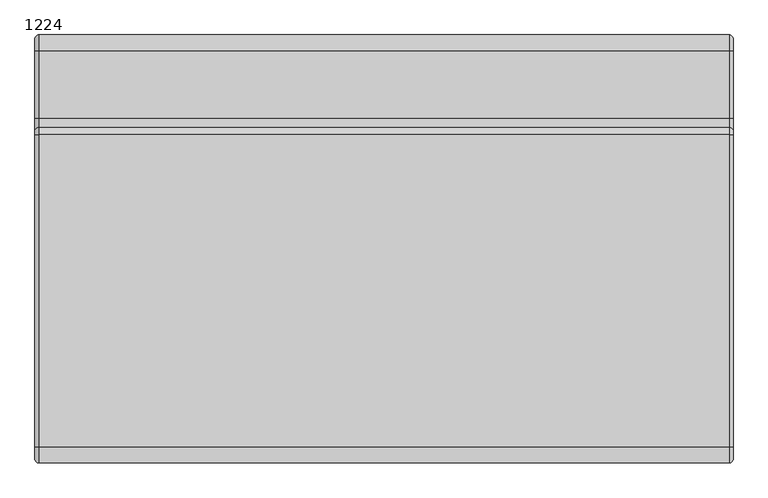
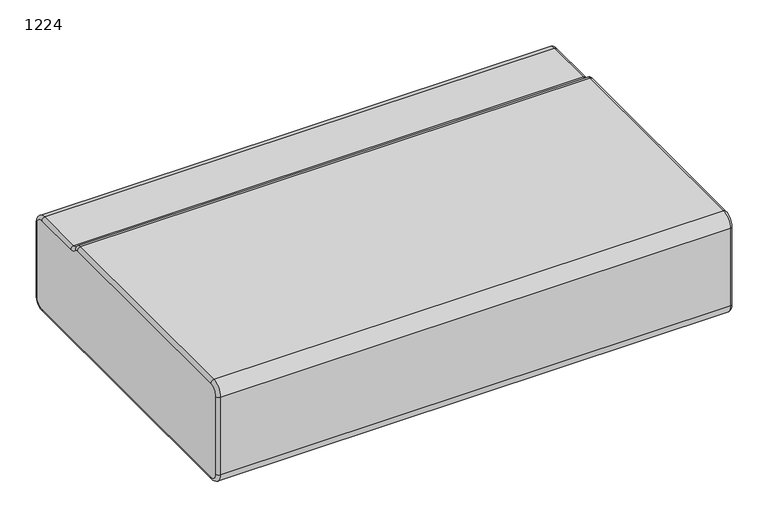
"""IFC4 building model written with IfcOpenShell, lengths in millimetres: furniture geometry, Laguna-Modular-Hideout-ERG : 1224."""

from ifc_helpers import new_model, si_unit, point, frame, origin, place, context, project, spatial, polyline, circle_curve, ellipse_curve, trimmed, source, transform, mapped, element, save
from ifc_brep_helpers import plane_surface, cylinder_surface, revolved_surface, advanced_brep


def furniture_1224_18ffa4c7(model_context):
    return source(origin(), model_context, "Body", "AdvancedBrep", [
        advanced_brep(
        [(-4618.2921763, 1208.7558502, 203.2), (-4624.6421763, 1208.7558502, 209.55), (-4624.6421763, 1227.8058502, 228.6), (-4618.2921763, 1234.1558502, 228.6), (-4624.6421763, 1227.8058502, 393.7), (-4618.2921763, 1234.1558502, 393.7), (-4624.6421763, 1208.7558502, 412.75), (-4618.2921763, 1208.7558502, 419.1), (-4624.6421763, 1100.3633388, 412.75), (-4618.2921763, 1100.3633388, 419.1), (-4624.6421763, 1081.0629451, 422.2976649), (-4618.2921763, 1086.1103079, 426.1507973), (-4624.6421763, 1074.6905694, 425.45), (-4618.2921763, 1074.6905694, 431.8), (-4624.6421763, 573.7558502, 425.45), (-4618.2921763, 573.7558502, 431.8), (-4624.6421763, 554.7058502, 406.4), (-4618.2921763, 548.3558502, 406.4), (-4624.6421763, 554.7058502, 228.6), (-4618.2921763, 548.3558502, 228.6), (-4624.6421763, 573.7558502, 209.55), (-4618.2921763, 573.7558502, 203.2), (-3513.3921763, 1074.6905694, 431.8), (-3513.3921763, 573.7558502, 431.8), (-3513.3921763, 548.3558502, 406.4), (-3513.3921763, 548.3558502, 228.6), (-3513.3921763, 573.7558502, 203.2), (-3513.3921763, 1208.7558502, 203.2), (-3513.3921763, 1234.1558502, 228.6), (-3513.3921763, 1234.1558502, 393.7), (-3513.3921763, 1208.7558502, 419.1), (-3513.3921763, 1100.3633388, 419.1), (-3513.3921763, 1086.1103079, 426.1507973), (-3507.0421763, 1208.7558502, 209.55), (-3507.0421763, 1227.8058502, 228.6), (-3507.0421763, 1227.8058502, 393.7), (-3507.0421763, 1208.7558502, 412.75), (-3507.0421763, 1100.3633388, 412.75), (-3507.0421763, 1081.0629451, 422.2976649), (-3507.0421763, 1074.6905694, 425.45), (-3507.0421763, 573.7558502, 425.45), (-3507.0421763, 554.7058502, 406.4), (-3507.0421763, 554.7058502, 228.6), (-3507.0421763, 573.7558502, 209.55)],
        [
            (0, 1, circle_curve(frame((-4618.2921763, 1208.7558502, 209.55), z_axis=(0.0, 1.0, 0.0), x_axis=(0.0, 0.0, 1.0)), 6.35)),
            (1, 2, circle_curve(frame((-4624.6421763, 1208.7558502, 228.6), z_axis=(1.0, 0.0, 0.0), x_axis=(0.0, 0.0, -1.0)), 19.05)),
            (2, 3, circle_curve(frame((-4618.2921763, 1227.8058502, 228.6), z_axis=(0.0, 0.0, -1.0), x_axis=(0.0, -1.0, 0.0)), 6.35)),
            (3, 0, circle_curve(frame((-4618.2921763, 1208.7558502, 228.6), z_axis=(-1.0, 0.0, 0.0), x_axis=(0.0, 0.0, -1.0)), 25.4)),
            (2, 4),
            (4, 5, circle_curve(frame((-4618.2921763, 1227.8058502, 393.7), z_axis=(0.0, 0.0, -1.0), x_axis=(0.0, -1.0, 0.0)), 6.35)),
            (5, 3),
            (4, 6, circle_curve(frame((-4624.6421763, 1208.7558502, 393.7), z_axis=(1.0, 0.0, 0.0), x_axis=(0.0, 1.0, 0.0)), 19.05)),
            (6, 7, circle_curve(frame((-4618.2921763, 1208.7558502, 412.75), z_axis=(0.0, 1.0, 0.0), x_axis=(0.0, 0.0, -1.0)), 6.35)),
            (7, 5, circle_curve(frame((-4618.2921763, 1208.7558502, 393.7), z_axis=(-1.0, 0.0, 0.0), x_axis=(0.0, 1.0, 0.0)), 25.4)),
            (6, 8),
            (8, 9, circle_curve(frame((-4618.2921763, 1100.3633388, 412.75), z_axis=(0.0, 1.0, 0.0), x_axis=(0.0, 0.0, -1.0)), 6.35)),
            (9, 7),
            (8, 10, circle_curve(frame((-4624.6421763, 1100.3633388, 437.0314921), z_axis=(-1.0, 0.0, 0.0), x_axis=(0.0, 0.0, -1.0)), 24.2814921)),
            (10, 11, circle_curve(frame((-4618.2921763, 1081.0629451, 422.2976649), z_axis=(0.0, 0.6067924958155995, -0.7948602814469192), x_axis=(0.0, -0.7948602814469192, -0.6067924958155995)), 6.35)),
            (11, 9, circle_curve(frame((-4618.2921763, 1100.3633388, 437.0314921), z_axis=(1.0, 0.0, 0.0), x_axis=(0.0, 0.0, -1.0)), 17.9314921)),
            (10, 12, circle_curve(frame((-4624.6421763, 1074.6905694, 417.4330241), z_axis=(1.0, 0.0, 0.0), x_axis=(0.0, 0.7948602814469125, 0.6067924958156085)), 8.0169759)),
            (12, 13, circle_curve(frame((-4618.2921763, 1074.6905694, 425.45), z_axis=(0.0, 1.0, 0.0), x_axis=(0.0, 0.0, -1.0)), 6.35)),
            (13, 11, circle_curve(frame((-4618.2921763, 1074.6905694, 417.4330241), z_axis=(-1.0, 0.0, 0.0), x_axis=(0.0, 0.7948602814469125, 0.6067924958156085)), 14.3669759)),
            (12, 14),
            (14, 15, circle_curve(frame((-4618.2921763, 573.7558502, 425.45), z_axis=(0.0, 1.0, 0.0), x_axis=(0.0, 0.0, -1.0)), 6.35)),
            (15, 13),
            (14, 16, circle_curve(frame((-4624.6421763, 573.7558502, 406.4), z_axis=(1.0, 0.0, 0.0), x_axis=(0.0, 0.0, 1.0)), 19.05)),
            (16, 17, circle_curve(frame((-4618.2921763, 554.7058502, 406.4), z_axis=(0.0, 0.0, 1.0), x_axis=(0.0, 1.0, 0.0)), 6.35)),
            (17, 15, circle_curve(frame((-4618.2921763, 573.7558502, 406.4), z_axis=(-1.0, 0.0, 0.0), x_axis=(0.0, 0.0, 1.0)), 25.4)),
            (16, 18),
            (18, 19, circle_curve(frame((-4618.2921763, 554.7058502, 228.6), z_axis=(0.0, 0.0, 1.0), x_axis=(0.0, 1.0, 0.0)), 6.35)),
            (19, 17),
            (18, 20, circle_curve(frame((-4624.6421763, 573.7558502, 228.6), z_axis=(1.0, 0.0, 0.0), x_axis=(0.0, -1.0, 0.0)), 19.05)),
            (20, 21, circle_curve(frame((-4618.2921763, 573.7558502, 209.55), z_axis=(0.0, -1.0, 0.0), x_axis=(0.0, 0.0, 1.0)), 6.35)),
            (21, 19, circle_curve(frame((-4618.2921763, 573.7558502, 228.6), z_axis=(-1.0, 0.0, 0.0), x_axis=(0.0, -1.0, 0.0)), 25.4)),
            (0, 21),
            (20, 1),
            (22, 13),
            (15, 23),
            (23, 22),
            (17, 24),
            (24, 23, circle_curve(frame((-3513.3921763, 573.7558502, 406.4), z_axis=(-1.0, 0.0, 0.0), x_axis=(0.0, 1.0, 0.0)), 25.4)),
            (19, 25),
            (25, 24),
            (21, 26),
            (26, 25, circle_curve(frame((-3513.3921763, 573.7558502, 228.6), z_axis=(-1.0, 0.0, 0.0), x_axis=(0.0, 1.0, 0.0)), 25.4)),
            (0, 27),
            (27, 26),
            (3, 28),
            (28, 27, circle_curve(frame((-3513.3921763, 1208.7558502, 228.6), z_axis=(-1.0, 0.0, 0.0), x_axis=(0.0, 1.0, 0.0)), 25.4)),
            (5, 29),
            (29, 28),
            (7, 30),
            (30, 29, circle_curve(frame((-3513.3921763, 1208.7558502, 393.7), z_axis=(-1.0, 0.0, 0.0), x_axis=(0.0, 1.0, 0.0)), 25.4)),
            (9, 31),
            (31, 30),
            (11, 32),
            (32, 31, circle_curve(frame((-3513.3921763, 1100.3633388, 437.0314921), z_axis=(1.0, 0.0, 0.0), x_axis=(0.0, 1.0, 0.0)), 17.9314921)),
            (22, 32, circle_curve(frame((-3513.3921763, 1074.6905694, 417.4330241), z_axis=(-1.0, 0.0, 0.0), x_axis=(0.0, 1.0, 0.0)), 14.3669759)),
            (33, 27, circle_curve(frame((-3513.3921763, 1208.7558502, 209.55), z_axis=(0.0, 1.0, 0.0), x_axis=(0.0, 0.0, 1.0)), 6.35)),
            (28, 34, circle_curve(frame((-3513.3921763, 1227.8058502, 228.6), z_axis=(0.0, 0.0, -1.0), x_axis=(0.0, -1.0, 0.0)), 6.35)),
            (34, 33, circle_curve(frame((-3507.0421763, 1208.7558502, 228.6), z_axis=(-1.0, 0.0, 0.0), x_axis=(0.0, 0.0, -1.0)), 19.05)),
            (29, 35, circle_curve(frame((-3513.3921763, 1227.8058502, 393.7), z_axis=(0.0, 0.0, -1.0), x_axis=(0.0, -1.0, 0.0)), 6.35)),
            (35, 34),
            (30, 36, circle_curve(frame((-3513.3921763, 1208.7558502, 412.75), z_axis=(0.0, 1.0, 0.0), x_axis=(0.0, 0.0, -1.0)), 6.35)),
            (36, 35, circle_curve(frame((-3507.0421763, 1208.7558502, 393.7), z_axis=(-1.0, 0.0, 0.0), x_axis=(0.0, 1.0, 0.0)), 19.05)),
            (31, 37, circle_curve(frame((-3513.3921763, 1100.3633388, 412.75), z_axis=(0.0, 1.0, 0.0), x_axis=(0.0, 0.0, -1.0)), 6.35)),
            (37, 36),
            (32, 38, circle_curve(frame((-3513.3921763, 1081.0629451, 422.2976649), z_axis=(0.0, 0.606792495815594, -0.7948602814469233), x_axis=(0.0, -0.7948602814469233, -0.606792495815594)), 6.35)),
            (38, 37, circle_curve(frame((-3507.0421763, 1100.3633388, 437.0314921), z_axis=(1.0, 0.0, 0.0), x_axis=(0.0, 0.0, -1.0)), 24.2814921)),
            (22, 39, circle_curve(frame((-3513.3921763, 1074.6905694, 425.45), z_axis=(0.0, 1.0, 0.0), x_axis=(0.0, 0.0, -1.0)), 6.35)),
            (39, 38, circle_curve(frame((-3507.0421763, 1074.6905694, 417.4330241), z_axis=(-1.0, 0.0, 0.0), x_axis=(0.0, 0.7948602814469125, 0.6067924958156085)), 8.0169759)),
            (23, 40, circle_curve(frame((-3513.3921763, 573.7558502, 425.45), z_axis=(0.0, 1.0, 0.0), x_axis=(0.0, 0.0, -1.0)), 6.35)),
            (40, 39),
            (24, 41, circle_curve(frame((-3513.3921763, 554.7058502, 406.4), z_axis=(0.0, 0.0, 1.0), x_axis=(0.0, 1.0, 0.0)), 6.35)),
            (41, 40, circle_curve(frame((-3507.0421763, 573.7558502, 406.4), z_axis=(-1.0, 0.0, 0.0), x_axis=(0.0, 0.0, 1.0)), 19.05)),
            (25, 42, circle_curve(frame((-3513.3921763, 554.7058502, 228.6), z_axis=(0.0, 0.0, 1.0), x_axis=(0.0, 1.0, 0.0)), 6.35)),
            (42, 41),
            (26, 43, circle_curve(frame((-3513.3921763, 573.7558502, 209.55), z_axis=(0.0, -1.0, 0.0), x_axis=(0.0, 0.0, 1.0)), 6.35)),
            (43, 42, circle_curve(frame((-3507.0421763, 573.7558502, 228.6), z_axis=(-1.0, 0.0, 0.0), x_axis=(0.0, -1.0, 0.0)), 19.05)),
            (33, 43),
        ],
        [
            revolved_surface(trimmed(ellipse_curve(frame((-4618.2921763, 1208.7558502, 209.55), z_axis=(0.0, -1.0, 0.0), x_axis=(0.0, 0.0, 1.0)), 6.35, 6.35), [point((-4624.6421763, 1208.7558502, 209.55))], [point((-4618.2921763, 1208.7558502, 203.2))], True, "CARTESIAN"), (-4618.2921763, 1208.7558502, 228.6), (1.0, 0.0, 0.0)),
            cylinder_surface(frame((-4618.2921763, 1227.8058502, 228.6), z_axis=(0.0, 0.0, -1.0), x_axis=(0.0, -1.0, 0.0)), 6.35),
            revolved_surface(trimmed(ellipse_curve(frame((-4618.2921763, 1227.8058502, 393.7), z_axis=(0.0, 0.0, -1.0), x_axis=(0.0, -1.0, 0.0)), 6.35, 6.35), [point((-4624.6421763, 1227.8058502, 393.7))], [point((-4618.2921763, 1234.1558502, 393.7))], True, "CARTESIAN"), (-4618.2921763, 1208.7558502, 393.7), (1.0, 0.0, 0.0)),
            cylinder_surface(frame((-4618.2921763, 1208.7558502, 412.75), z_axis=(0.0, 1.0, 0.0), x_axis=(0.0, 0.0, -1.0)), 6.35),
            revolved_surface(trimmed(ellipse_curve(frame((-4618.2921763, 1100.3633388, 412.75), z_axis=(0.0, 1.0, 0.0), x_axis=(0.0, 0.0, -1.0)), 6.35, 6.35), [point((-4624.6421763, 1100.3633388, 412.75))], [point((-4618.2921763, 1100.3633388, 419.1))], True, "CARTESIAN"), (-4618.2921763, 1100.3633388, 437.0314921), (-1.0, 0.0, 0.0)),
            revolved_surface(trimmed(ellipse_curve(frame((-4618.2921763, 1081.0629451, 422.2976649), z_axis=(0.0, 0.6067924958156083, -0.7948602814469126), x_axis=(0.0, -0.7948602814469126, -0.6067924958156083)), 6.35, 6.35), [point((-4624.6421763, 1081.0629451, 422.2976649))], [point((-4618.2921763, 1086.1103079, 426.1507973))], True, "CARTESIAN"), (-4618.2921763, 1074.6905694, 417.4330241), (1.0, 0.0, 0.0)),
            cylinder_surface(frame((-4618.2921763, 1074.6905694, 425.45), z_axis=(0.0, 1.0, 0.0), x_axis=(0.0, 0.0, -1.0)), 6.35),
            revolved_surface(trimmed(ellipse_curve(frame((-4618.2921763, 573.7558502, 425.45), z_axis=(0.0, 1.0, 0.0), x_axis=(0.0, 0.0, -1.0)), 6.35, 6.35), [point((-4624.6421763, 573.7558502, 425.45))], [point((-4618.2921763, 573.7558502, 431.8))], True, "CARTESIAN"), (-4618.2921763, 573.7558502, 406.4), (1.0, 0.0, 0.0)),
            cylinder_surface(frame((-4618.2921763, 554.7058502, 406.4), z_axis=(0.0, 0.0, 1.0), x_axis=(0.0, 1.0, 0.0)), 6.35),
            revolved_surface(trimmed(ellipse_curve(frame((-4618.2921763, 554.7058502, 228.6), z_axis=(0.0, 0.0, 1.0), x_axis=(0.0, 1.0, 0.0)), 6.35, 6.35), [point((-4624.6421763, 554.7058502, 228.6))], [point((-4618.2921763, 548.3558502, 228.6))], True, "CARTESIAN"), (-4618.2921763, 573.7558502, 228.6), (1.0, 0.0, 0.0)),
            cylinder_surface(frame((-4618.2921763, 573.7558502, 209.55), z_axis=(0.0, -1.0, 0.0), x_axis=(0.0, 0.0, 1.0)), 6.35),
            plane_surface(frame((-3513.3921763, 1074.6905694, 431.8), z_axis=(0.0, 0.0, 1.0), x_axis=(-1.0, 0.0, 0.0))),
            cylinder_surface(frame((-4618.2921763, 573.7558502, 406.4), z_axis=(1.0, 0.0, 0.0), x_axis=(0.0, 1.0, 0.0)), 25.4),
            plane_surface(frame((-3513.3921763, 548.3558502, 406.4), z_axis=(0.0, -1.0, 0.0), x_axis=(-1.0, 0.0, 0.0))),
            cylinder_surface(frame((-4618.2921763, 573.7558502, 228.6), z_axis=(1.0, 0.0, 0.0), x_axis=(0.0, 1.0, 0.0)), 25.4),
            plane_surface(frame((-3513.3921763, 573.7558502, 203.2), z_axis=(0.0, 0.0, -1.0), x_axis=(-1.0, 0.0, 0.0))),
            cylinder_surface(frame((-4618.2921763, 1208.7558502, 228.6), z_axis=(1.0, 0.0, 0.0), x_axis=(0.0, 1.0, 0.0)), 25.4),
            plane_surface(frame((-3513.3921763, 1234.1558502, 228.6), z_axis=(0.0, 1.0, 0.0), x_axis=(-1.0, 0.0, 0.0))),
            cylinder_surface(frame((-4618.2921763, 1208.7558502, 393.7), z_axis=(1.0, 0.0, 0.0), x_axis=(0.0, 1.0, 0.0)), 25.4),
            plane_surface(frame((-3513.3921763, 1208.7558502, 419.1), z_axis=(0.0, 0.0, 1.0), x_axis=(-1.0, 0.0, 0.0))),
            revolved_surface(polyline([(-4618.2921763, 1118.2948309, 437.0314921), (-3513.3921763, 1118.2948309, 437.0314921)]), (-4618.2921763, 1100.3633388, 437.0314921), (-1.0, 0.0, 0.0)),
            cylinder_surface(frame((-4618.2921763, 1074.6905694, 417.4330241), z_axis=(1.0, 0.0, 0.0), x_axis=(0.0, 1.0, 0.0)), 14.3669759),
            revolved_surface(trimmed(ellipse_curve(frame((-3513.3921763, 1208.7558502, 209.55), z_axis=(0.0, -1.0, 0.0), x_axis=(0.0, 0.0, 1.0)), 6.35, 6.35), [point((-3513.3921763, 1208.7558502, 203.2))], [point((-3507.0421763, 1208.7558502, 209.55))], True, "CARTESIAN"), (-3513.3921763, 1208.7558502, 228.6), (1.0, 0.0, 0.0)),
            cylinder_surface(frame((-3513.3921763, 1227.8058502, 228.6), z_axis=(0.0, 0.0, -1.0), x_axis=(0.0, -1.0, 0.0)), 6.35),
            revolved_surface(trimmed(ellipse_curve(frame((-3513.3921763, 1227.8058502, 393.7), z_axis=(0.0, 0.0, -1.0), x_axis=(0.0, -1.0, 0.0)), 6.35, 6.35), [point((-3513.3921763, 1234.1558502, 393.7))], [point((-3507.0421763, 1227.8058502, 393.7))], True, "CARTESIAN"), (-3513.3921763, 1208.7558502, 393.7), (1.0, 0.0, 0.0)),
            cylinder_surface(frame((-3513.3921763, 1208.7558502, 412.75), z_axis=(0.0, 1.0, 0.0), x_axis=(0.0, 0.0, -1.0)), 6.35),
            revolved_surface(trimmed(ellipse_curve(frame((-3513.3921763, 1100.3633388, 412.75), z_axis=(0.0, 1.0, 0.0), x_axis=(0.0, 0.0, -1.0)), 6.35, 6.35), [point((-3513.3921763, 1100.3633388, 419.1))], [point((-3507.0421763, 1100.3633388, 412.75))], True, "CARTESIAN"), (-3513.3921763, 1100.3633388, 437.0314921), (-1.0, 0.0, 0.0)),
            revolved_surface(trimmed(ellipse_curve(frame((-3513.3921763, 1081.0629451, 422.2976649), z_axis=(0.0, 0.6067924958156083, -0.7948602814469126), x_axis=(0.0, -0.7948602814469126, -0.6067924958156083)), 6.35, 6.35), [point((-3513.3921763, 1086.1103079, 426.1507973))], [point((-3507.0421763, 1081.0629451, 422.2976649))], True, "CARTESIAN"), (-3513.3921763, 1074.6905694, 417.4330241), (1.0, 0.0, 0.0)),
            cylinder_surface(frame((-3513.3921763, 1074.6905694, 425.45), z_axis=(0.0, 1.0, 0.0), x_axis=(0.0, 0.0, -1.0)), 6.35),
            revolved_surface(trimmed(ellipse_curve(frame((-3513.3921763, 573.7558502, 425.45), z_axis=(0.0, 1.0, 0.0), x_axis=(0.0, 0.0, -1.0)), 6.35, 6.35), [point((-3513.3921763, 573.7558502, 431.8))], [point((-3507.0421763, 573.7558502, 425.45))], True, "CARTESIAN"), (-3513.3921763, 573.7558502, 406.4), (1.0, 0.0, 0.0)),
            cylinder_surface(frame((-3513.3921763, 554.7058502, 406.4), z_axis=(0.0, 0.0, 1.0), x_axis=(0.0, 1.0, 0.0)), 6.35),
            revolved_surface(trimmed(ellipse_curve(frame((-3513.3921763, 554.7058502, 228.6), z_axis=(0.0, 0.0, 1.0), x_axis=(0.0, 1.0, 0.0)), 6.35, 6.35), [point((-3513.3921763, 548.3558502, 228.6))], [point((-3507.0421763, 554.7058502, 228.6))], True, "CARTESIAN"), (-3513.3921763, 573.7558502, 228.6), (1.0, 0.0, 0.0)),
            cylinder_surface(frame((-3513.3921763, 573.7558502, 209.55), z_axis=(0.0, -1.0, 0.0), x_axis=(0.0, 0.0, 1.0)), 6.35),
            plane_surface(frame((-3507.0421763, 592.8058502, 406.4), z_axis=(1.0, 0.0, 0.0), x_axis=(0.0, 0.0, 1.0))),
            plane_surface(frame((-4624.6421763, 554.7058502, 228.6), z_axis=(-1.0, 0.0, 0.0), x_axis=(0.0, 0.0, 1.0))),
        ],
        [
            (0, [[1, 2, 3, 4]]),
            (1, [[-3, 5, 6, 7]]),
            (2, [[-6, 8, 9, 10]]),
            (3, [[-9, 11, 12, 13]]),
            (4, [[-12, 14, 15, 16]]),
            (5, [[-15, 17, 18, 19]]),
            (6, [[-18, 20, 21, 22]]),
            (7, [[-21, 23, 24, 25]]),
            (8, [[-24, 26, 27, 28]]),
            (9, [[-27, 29, 30, 31]]),
            (10, [[-1, 32, -30, 33]]),
            (11, [[34, -22, 35, 36]]),
            (12, [[-35, -25, 37, 38]]),
            (13, [[-37, -28, 39, 40]]),
            (14, [[-39, -31, 41, 42]]),
            (15, [[-41, -32, 43, 44]]),
            (16, [[-43, -4, 45, 46]]),
            (17, [[-45, -7, 47, 48]]),
            (18, [[-47, -10, 49, 50]]),
            (19, [[-49, -13, 51, 52]]),
            (20, [[-51, -16, 53, 54]]),
            (21, [[-34, 55, -53, -19]]),
            (22, [[56, -46, 57, 58]]),
            (23, [[-57, -48, 59, 60]]),
            (24, [[-59, -50, 61, 62]]),
            (25, [[-61, -52, 63, 64]]),
            (26, [[-63, -54, 65, 66]]),
            (27, [[-65, -55, 67, 68]]),
            (28, [[-67, -36, 69, 70]]),
            (29, [[-69, -38, 71, 72]]),
            (30, [[-71, -40, 73, 74]]),
            (31, [[-73, -42, 75, 76]]),
            (32, [[-56, 77, -75, -44]]),
            (33, [[-58, -60, -62, -64, -66, -68, -70, -72, -74, -76, -77]]),
            (34, [[-2, -33, -29, -26, -23, -20, -17, -14, -11, -8, -5]]),
        ],
    ),
    ])


if __name__ == "__main__":
    model = new_model("IFC4")
    model_context = context("Model", 3, world=origin())
    ifc_project = project(units=[si_unit("LENGTHUNIT", "METRE", prefix="MILLI")], contexts=[model_context])
    site = spatial("IfcSite", under=ifc_project)
    building = spatial("IfcBuilding", under=site)
    placement = place(None, origin())
    furniture_1224_shape = furniture_1224_18ffa4c7(model_context)
    element("IfcFurniture", 1, ObjectType="Laguna-Modular-Hideout-ERG : 1224", at=placement, inside=building, context=model_context, shape_type="MappedRepresentation", body=[
        mapped(furniture_1224_shape, transform((0.0, 0.0, 0.0), x_axis=(1.0, 0.0, 0.0), y_axis=(0.0, 1.0, 0.0), z_axis=(0.0, 0.0, 1.0))),
    ])
    save(model, "model.ifc")
